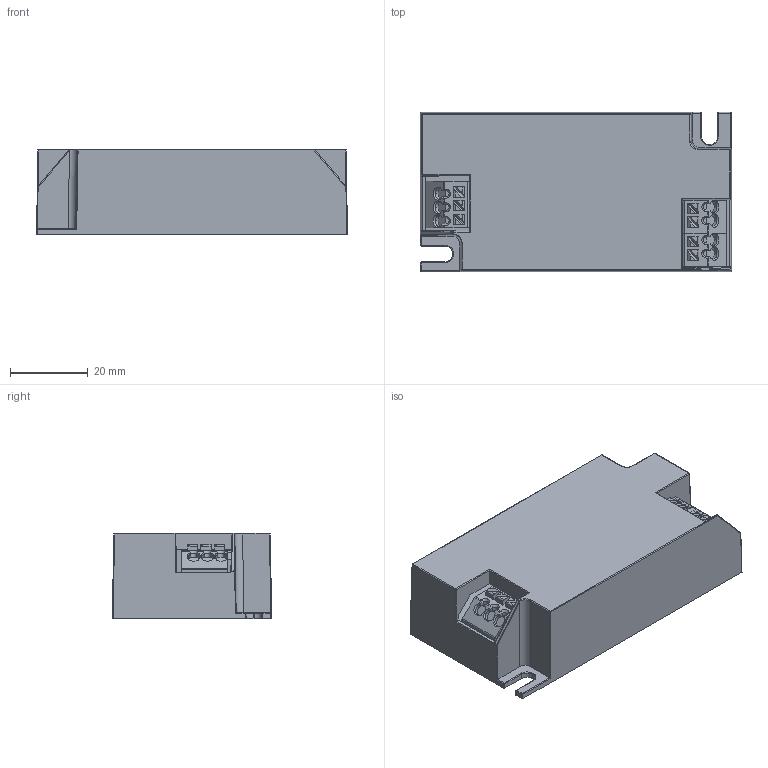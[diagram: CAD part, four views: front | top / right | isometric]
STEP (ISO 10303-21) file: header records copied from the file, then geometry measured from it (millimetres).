
FILE_DESCRIPTION (( 'STEP AP214' ), '1' );
FILE_NAME ('Tiny_mekaniikka ver4.STEP', '2022-05-31T14:49:45', ( '' ), ( '' ), 'SwSTEP 2.0', 'SolidWorks 2014', '' );
FILE_SCHEMA (( 'AUTOMOTIVE_DESIGN' ));
Length unit declared in the file: millimetre
Products named in the file (7): D009223_C; Tiny_mekaniikka ver4; 3n; D009224_C; Tiny_pcb_ver4; 2n; Tiny_pcb
Assembly tree (7 placements, depth 3):
  Tiny_mekaniikka ver4
    D009224_C
    D009223_C
    Tiny_pcb_ver4
      Tiny_pcb
      2n  x2
      3n
Bounding box: 80 x 41 x 22 mm (x, y, z)
Volume: 19034.9 mm3; surface area: 33666.6 mm2
Topology: 6 solids, 6 shells, 815 faces, 2112 edges, 1323 vertices
Faces by surface type: plane 441, cylinder 256, bspline 54, sphere 44, cone 18, torus 2
Entity records: 23441 total; most frequent: CARTESIAN_POINT 6756, ORIENTED_EDGE 3654, DIRECTION 3182, EDGE_CURVE 1827, VECTOR 1176, LINE 1176, VERTEX_POINT 1135, AXIS2_PLACEMENT_3D 1003
